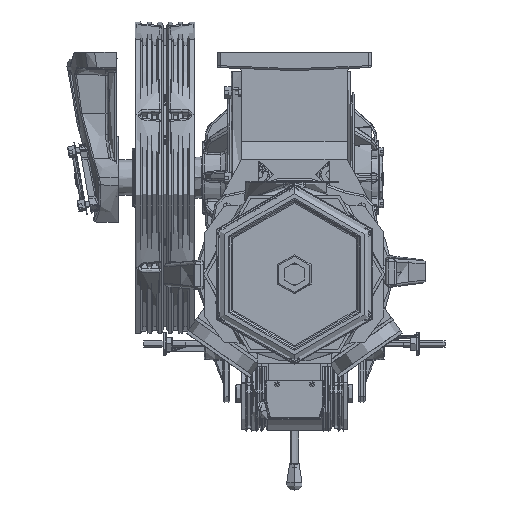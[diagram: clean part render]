
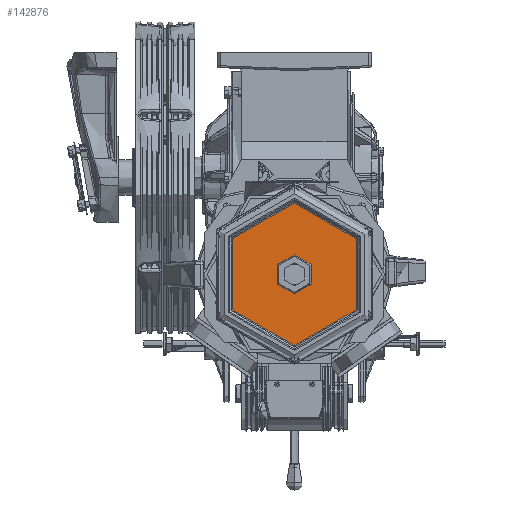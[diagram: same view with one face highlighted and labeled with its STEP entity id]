
A CAD part, front view. The second image highlights one B-rep face of the part: STEP entity #142876.
In plain terms, the highlighted planar face has unit normal (0, -1, 0).
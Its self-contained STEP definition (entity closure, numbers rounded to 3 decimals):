
#3849 = CARTESIAN_POINT ( 'NONE',  ( -27.936, -453.633, -40.043 ) ) ;
#6260 = DIRECTION ( 'NONE',  ( 0., -1., 0. ) ) ;
#24469 = ORIENTED_EDGE ( 'NONE', *, *, #204711, .F. ) ;
#25910 = AXIS2_PLACEMENT_3D ( 'NONE', #109858, #37564, #112224 ) ;
#30266 = EDGE_CURVE ( 'NONE', #127268, #213152, #192581, .T. ) ;
#36613 = VERTEX_POINT ( 'NONE', #93431 ) ;
#37564 = DIRECTION ( 'NONE',  ( 0., -1., 0. ) ) ;
#38713 = DIRECTION ( 'NONE',  ( 0., -1., 0. ) ) ;
#49710 = CARTESIAN_POINT ( 'NONE',  ( -27.936, -453.633, -40.043 ) ) ;
#55662 = FACE_BOUND ( 'NONE', #234083, .T. ) ;
#60507 = CARTESIAN_POINT ( 'NONE',  ( -27.936, -453.633, -9.887 ) ) ;
#74228 = CARTESIAN_POINT ( 'NONE',  ( -27.936, -453.633, 70.714 ) ) ;
#80592 = CARTESIAN_POINT ( 'NONE',  ( -27.936, -453.633, -70.199 ) ) ;
#81169 = AXIS2_PLACEMENT_3D ( 'NONE', #3849, #97815, #186980 ) ;
#93431 = CARTESIAN_POINT ( 'NONE',  ( -27.936, -453.633, -150.8 ) ) ;
#97815 = DIRECTION ( 'NONE',  ( 0., -1., 0. ) ) ;
#98321 = ORIENTED_EDGE ( 'NONE', *, *, #217447, .T. ) ;
#109858 = CARTESIAN_POINT ( 'NONE',  ( 84.064, -453.633, -40.043 ) ) ;
#112224 = DIRECTION ( 'NONE',  ( 0., 0., -1. ) ) ;
#116166 = EDGE_LOOP ( 'NONE', ( #98321, #196440 ) ) ;
#127268 = VERTEX_POINT ( 'NONE', #80592 ) ;
#129279 = CIRCLE ( 'NONE', #186877, 110.757 ) ;
#136810 = EDGE_CURVE ( 'NONE', #209845, #36613, #205114, .T. ) ;
#140718 = AXIS2_PLACEMENT_3D ( 'NONE', #209808, #6260, #227906 ) ;
#142876 = ADVANCED_FACE ( 'NONE', ( #150687, #55662 ), #206111, .T. ) ;
#150687 = FACE_OUTER_BOUND ( 'NONE', #116166, .T. ) ;
#157632 = ORIENTED_EDGE ( 'NONE', *, *, #30266, .F. ) ;
#166551 = AXIS2_PLACEMENT_3D ( 'NONE', #49710, #212296, #173786 ) ;
#167519 = CARTESIAN_POINT ( 'NONE',  ( -27.936, -453.633, -40.043 ) ) ;
#173786 = DIRECTION ( 'NONE',  ( 0., 0., -1. ) ) ;
#186877 = AXIS2_PLACEMENT_3D ( 'NONE', #167519, #38713, #198946 ) ;
#186980 = DIRECTION ( 'NONE',  ( 0., 0., -1. ) ) ;
#192581 = CIRCLE ( 'NONE', #81169, 30.156 ) ;
#196440 = ORIENTED_EDGE ( 'NONE', *, *, #136810, .T. ) ;
#198946 = DIRECTION ( 'NONE',  ( 0., 0., -1. ) ) ;
#204711 = EDGE_CURVE ( 'NONE', #213152, #127268, #217608, .T. ) ;
#205114 = CIRCLE ( 'NONE', #166551, 110.757 ) ;
#206111 = PLANE ( 'NONE',  #25910 ) ;
#209808 = CARTESIAN_POINT ( 'NONE',  ( -27.936, -453.633, -40.043 ) ) ;
#209845 = VERTEX_POINT ( 'NONE', #74228 ) ;
#212296 = DIRECTION ( 'NONE',  ( 0., -1., 0. ) ) ;
#213152 = VERTEX_POINT ( 'NONE', #60507 ) ;
#217447 = EDGE_CURVE ( 'NONE', #36613, #209845, #129279, .T. ) ;
#217608 = CIRCLE ( 'NONE', #140718, 30.156 ) ;
#227906 = DIRECTION ( 'NONE',  ( 0., 0., -1. ) ) ;
#234083 = EDGE_LOOP ( 'NONE', ( #24469, #157632 ) ) ;
